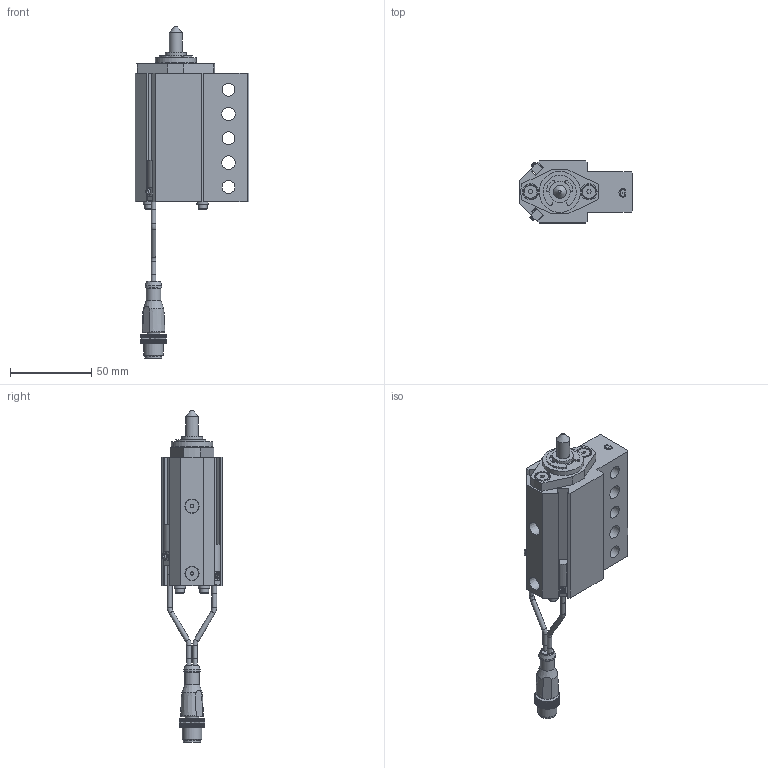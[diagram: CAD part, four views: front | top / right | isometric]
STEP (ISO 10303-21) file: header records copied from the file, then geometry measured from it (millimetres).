
FILE_DESCRIPTION(/* description */ ('NAAMS FLOATING MICRO PIN'),/* implementation_level */ '2;1');
FILE_NAME(/* name */ 'C:\Vault Workspace\CAD\Welker\Shot Pin\NMP\NMP080012GANL3.stp',/* time_stamp */ '2021-01-27T08:31:59-05:00',/* author */ ('WELKER'),/* organization */ (''),/* preprocessor_version */ 'ST-DEVELOPER v18.1',/* originating_system */ 'Autodesk Inventor 2020',/* authorisation */ '');
FILE_SCHEMA (('AUTOMOTIVE_DESIGN { 1 0 10303 214 3 1 1 }'));
Length unit declared in the file: millimetre
Products named in the file (16): NMPL01; NMP L3 SWITCH; L3 Connector; L3 Sensor 1; L3 Sensor 2; L3 Sensor cable; L3 Sensor cable 2; M3X0.5-8 SHCS; NL3; NMPE06; NMPE03; NMPE05-DIA-LENGTH; 985432A218; NMPE01G-PORT; RMPE02; M5X5 SHOULDER
Assembly tree (22 placements, depth 3):
  NMPL01
    NMP L3 SWITCH
      L3 Connector
      L3 Sensor 1
      L3 Sensor 2
      L3 Sensor cable
      L3 Sensor cable 2
    M3X0.5-8 SHCS  x4
    NL3  x4
    NMPE06
    NMPE03
    NMPE05-DIA-LENGTH
    985432A218
    NMPE01G-PORT
    RMPE02
    M5X5 SHOULDER  x2
Bounding box: 70 x 38.1 x 204.73 mm (x, y, z)
Volume: 131513.6 mm3; surface area: 49351.6 mm2
Topology: 21 solids, 21 shells, 760 faces, 2090 edges, 1402 vertices
Faces by surface type: plane 546, cylinder 149, cone 35, bspline 16, torus 11, sphere 3
Full cylindrical faces by diameter (mm): 2 x2, 2.459 x4, 2.9 x10, 3 x5, 3.242 x2, 3.4 x4, 4 x2, 5 x6, 5.5 x4, 6.647 x2, 7 x4, 8 x6, 8.3 x2, 8.5 x2, 9 x3, 10 x3, 10.4 x1, 10.5 x1, 12 x1, 13 x3, 16 x2, 19.05 x3, 21 x1, 22.5 x1, 23.673 x1, 24 x1, 25.4 x1, 25.5 x1, 26.5 x1, 28.677 x1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
Entity records: 23785 total; most frequent: CARTESIAN_POINT 4688, ORIENTED_EDGE 3870, DIRECTION 3771, EDGE_CURVE 1935, LINE 1391, VECTOR 1391, VERTEX_POINT 1307, AXIS2_PLACEMENT_3D 1190
